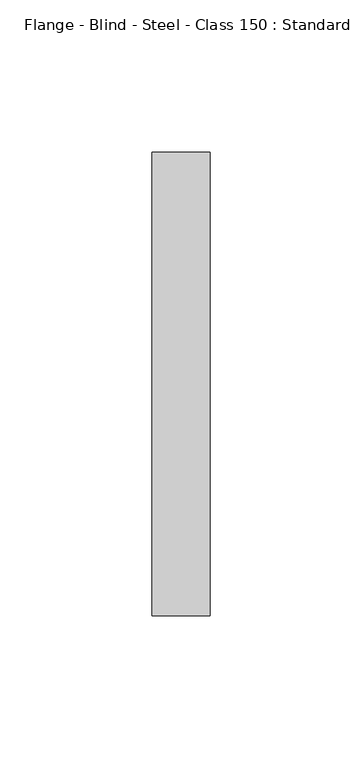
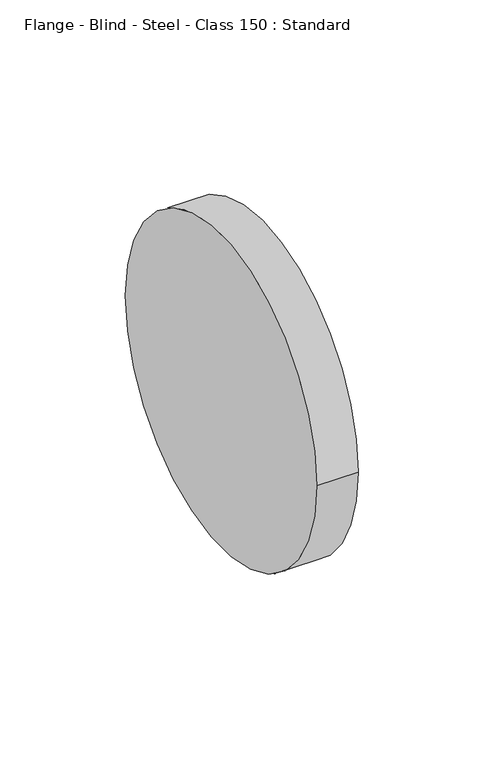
"""IFC4 building model written with IfcOpenShell, lengths in millimetres: pipe fitting geometry, Flange - Blind - Steel - Class 150 : Standard."""

from ifc_helpers import new_model, si_unit, point, frame, origin, origin_2d, place, context, project, spatial, circle_curve, trimmed, segment, composite_curve, outline, extrude, source, transform, mapped, element, save


def flange_blind_steel_class_150_standard_70032e34(model_context):
    return source(origin(), model_context, "Body", "SweptSolid", [
        extrude(outline(composite_curve([segment(trimmed(circle_curve(origin_2d(), 76.2), [point((-76.2, 0.0))], [point((76.2, 0.0))], False, "CARTESIAN"), True, "CONTINUOUS"), segment(trimmed(circle_curve(origin_2d(), 76.2), [point((76.2, 0.0))], [point((-76.2, 0.0))], False, "CARTESIAN"), True, "CONTINUOUS")], self_intersect=False)), frame((1.5875, 0.0, 0.0), z_axis=(1.0, 0.0, 0.0), x_axis=(0.0, 1.0, 0.0)), (0.0, 0.0, 1.0), 19.05),
    ])


if __name__ == "__main__":
    model = new_model("IFC4")
    model_context = context("Model", 3, world=origin())
    ifc_project = project(units=[si_unit("LENGTHUNIT", "METRE", prefix="MILLI")], contexts=[model_context])
    site = spatial("IfcSite", under=ifc_project)
    building = spatial("IfcBuilding", under=site)
    placement = place(None, origin())
    flange_blind_steel_class_150_standard_shape = flange_blind_steel_class_150_standard_70032e34(model_context)
    element("IfcPipeFitting", 1, ObjectType="Flange - Blind - Steel - Class 150 : Standard", at=placement, inside=building, context=model_context, shape_type="MappedRepresentation", body=[
        mapped(flange_blind_steel_class_150_standard_shape, transform((0.0, 0.0, 0.0), x_axis=(1.0, 0.0, 0.0), y_axis=(0.0, 1.0, 0.0), z_axis=(0.0, 0.0, 1.0))),
    ])
    save(model, "model.ifc")
